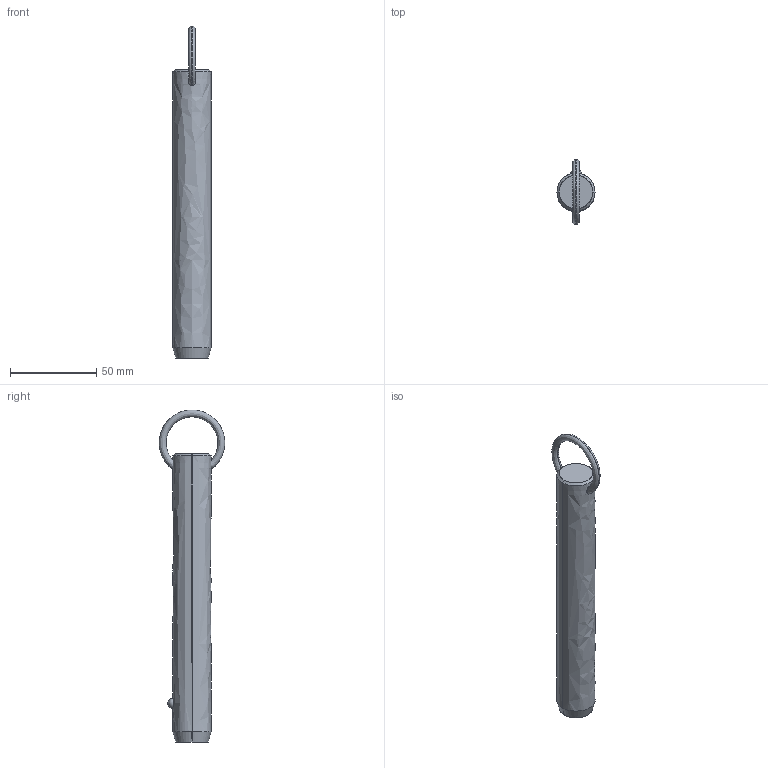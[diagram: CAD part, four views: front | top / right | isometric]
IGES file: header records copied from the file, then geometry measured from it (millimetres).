
Start section: SolidWorks IGES file using analytic representation for surfaces
Global section: file name: C:\Users\liam_\OneDrive\Documents\WORK\Work for WixRoyd\Job Files\J-00019 - Matt Davis CAD Checking\04. CAD Drawings\automotion20190605\P1250.2_v2\P1250.2_v2_20190729_IGES\P1250.087-510.igs; native system: SolidWorks 2017; preprocessor: SolidWorks 2017; author: liam_; date: 190730.001351; units: millimetre
Bounding box: 22.2 x 38.09 x 193 mm (x, y, z)
Surface area: 13332.7 mm2 (no closed solid volume)
Topology: 0 solids, 0 shells, 12 faces, 302 edges, 300 vertices
Faces by surface type: revolution 8, bspline 4
